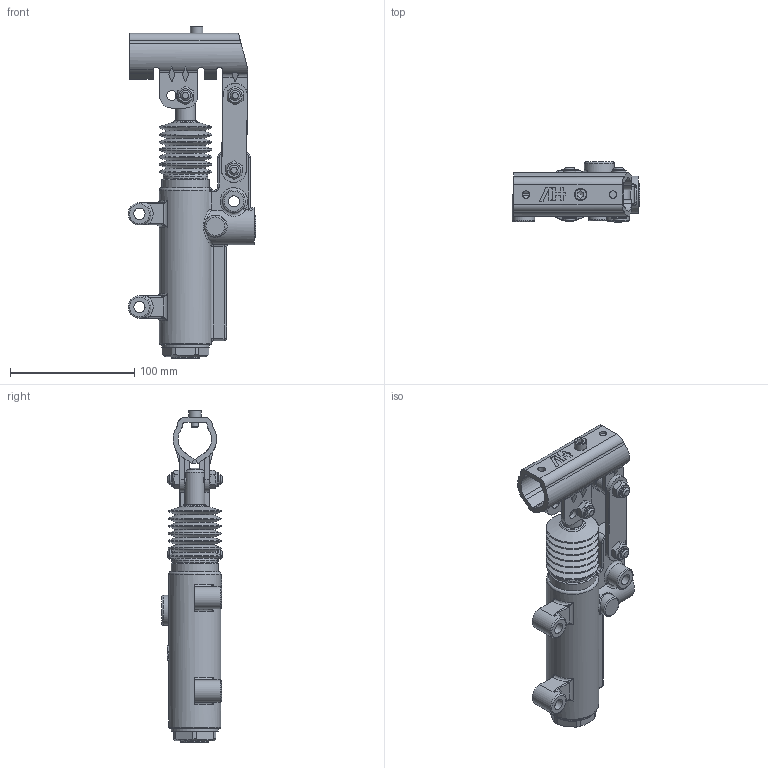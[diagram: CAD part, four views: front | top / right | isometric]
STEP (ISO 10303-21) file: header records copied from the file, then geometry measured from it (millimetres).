
FILE_DESCRIPTION((''),'2;1');
FILE_NAME('G:\HV_HYDRAULIC\AZIENDA_HV_HYDRAULIC\ARCHIVIO_DISEGNI\5_PRODOTTI_FINITI\1_POMPE_MANUALI\6074_PMP_20\6074.0060_PMP_20_e-s_(HV)\6074.0060.stp','2024-03-22T15:22:08',('christian.scardovi'),(''),'Autodesk Inventor 2013','Autodesk Inventor 2013','');
FILE_SCHEMA(('AUTOMOTIVE_DESIGN { 1 0 10303 214 1 1 1 1 }'));
Length unit declared in the file: millimetre
Products named in the file (1): 6074.0060
Bounding box: 102.5 x 48.5 x 267 mm (x, y, z)
Surface area: 82419.3 mm2
Topology: 2 solids, 3 shells, 1069 faces, 2760 edges, 1762 vertices
Faces by surface type: plane 572, bspline 195, cylinder 160, cone 75, torus 58, sphere 9
Full cylindrical faces by diameter (mm): 6 x4, 8 x10, 9 x3, 10 x1, 11.05 x6, 13.5 x1, 16 x1, 17 x1, 17.5 x1, 18 x5, 22.5 x1, 24 x1, 30 x1, 36 x1, 38 x1, 38.004 x1
Entity records: 35081 total; most frequent: CARTESIAN_POINT 9787, ORIENTED_EDGE 5258, DIRECTION 4356, EDGE_CURVE 2629, VERTEX_POINT 1738, VECTOR 1554, LINE 1554, AXIS2_PLACEMENT_3D 1401
